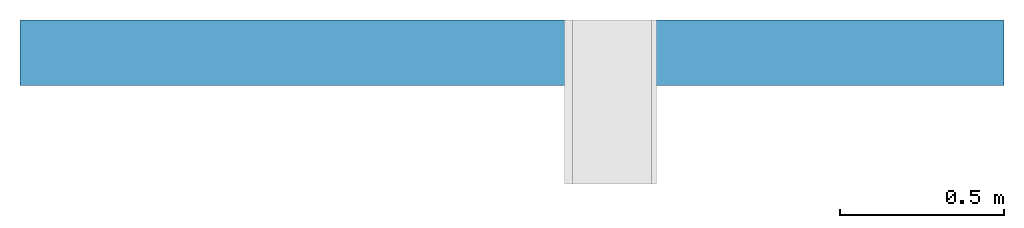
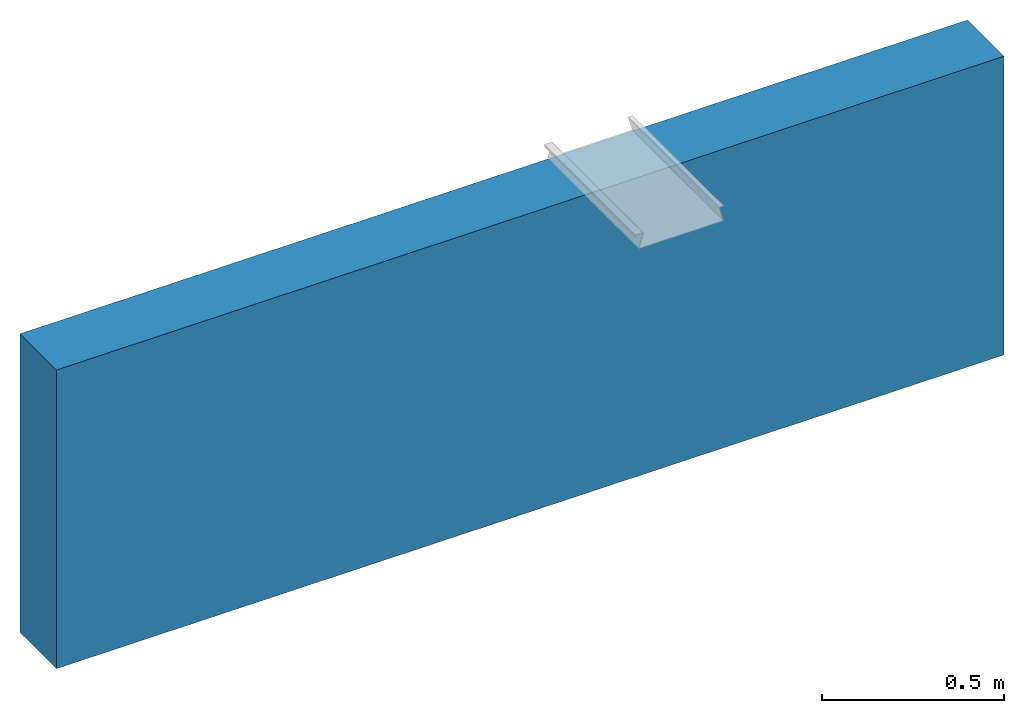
# One storey, part 1 of 2: 1 wall.
"""IFC2X3 building model written with IfcOpenShell, lengths in millimetres."""

from ifc_helpers import new_model, entity, si_unit, converted_unit, derived_unit, direction, frame, frame_2d, origin, place, context, subcontext, project, spatial, rectangle, extrude, material, layer, layer_set, layer_usage, type_object, element, save


model = new_model("IFC2X3")

# Units and contexts
model_context = context("Model", 3, precision=0.01, world=origin(), true_north=direction((6.12303176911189e-17, 1.0)))
body_context = subcontext(model_context, "Body", "Model", "MODEL_VIEW")
ifc_project = project(units=[si_unit("LENGTHUNIT", "METRE", prefix="MILLI"), si_unit("AREAUNIT", "SQUARE_METRE"), si_unit("VOLUMEUNIT", "CUBIC_METRE"), converted_unit("PLANEANGLEUNIT", "DEGREE", entity("IfcRatioMeasure", 0.0174532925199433), si_unit("PLANEANGLEUNIT", "RADIAN"), dimensions=[0, 0, 0, 0, 0, 0, 0]), si_unit("MASSUNIT", "GRAM", prefix="KILO"), derived_unit("MASSDENSITYUNIT", [(si_unit("MASSUNIT", "GRAM", prefix="KILO"), 1), (si_unit("LENGTHUNIT", "METRE"), -3)]), si_unit("TIMEUNIT", "SECOND"), si_unit("FREQUENCYUNIT", "HERTZ"), si_unit("THERMODYNAMICTEMPERATUREUNIT", "DEGREE_CELSIUS"), derived_unit("THERMALTRANSMITTANCEUNIT", [(si_unit("MASSUNIT", "GRAM", prefix="KILO"), 1), (si_unit("THERMODYNAMICTEMPERATUREUNIT", "KELVIN"), -1), (si_unit("TIMEUNIT", "SECOND"), -3)]), derived_unit("VOLUMETRICFLOWRATEUNIT", [(si_unit("LENGTHUNIT", "METRE"), 3), (si_unit("TIMEUNIT", "SECOND"), -1)]), si_unit("ELECTRICCURRENTUNIT", "AMPERE"), si_unit("ELECTRICVOLTAGEUNIT", "VOLT"), si_unit("POWERUNIT", "WATT"), si_unit("FORCEUNIT", "NEWTON", prefix="KILO"), si_unit("ILLUMINANCEUNIT", "LUX"), si_unit("LUMINOUSFLUXUNIT", "LUMEN"), si_unit("LUMINOUSINTENSITYUNIT", "CANDELA"), derived_unit("USERDEFINED", [(si_unit("MASSUNIT", "GRAM", prefix="KILO"), -1), (si_unit("LENGTHUNIT", "METRE"), -2), (si_unit("TIMEUNIT", "SECOND"), 3), (si_unit("LUMINOUSFLUXUNIT", "LUMEN"), 1)]), derived_unit("LINEARVELOCITYUNIT", [(si_unit("LENGTHUNIT", "METRE"), 1), (si_unit("TIMEUNIT", "SECOND"), -1)]), si_unit("PRESSUREUNIT", "PASCAL"), derived_unit("USERDEFINED", [(si_unit("LENGTHUNIT", "METRE"), -2), (si_unit("MASSUNIT", "GRAM", prefix="KILO"), 1), (si_unit("TIMEUNIT", "SECOND"), -2)])], contexts=[model_context])

# Site, building, storey
site_placement = place(None, origin())
site = spatial("IfcSite", under=ifc_project, at=site_placement, Name="Default", CompositionType="ELEMENT")
building_placement = place(site_placement, origin())
building = spatial("IfcBuilding", under=site, at=building_placement, CompositionType="ELEMENT")
storey_placement = place(building_placement, origin())
storey = spatial("IfcBuildingStorey", under=building, at=storey_placement, Name="Level 1", CompositionType="ELEMENT", Elevation=0.0)

# Wall
ifc_material = material(Name="Default Wall")
ifc_layer = layer(ifc_material, 200.0)
ifc_layer_set = layer_set([ifc_layer], Name="Basic Wall:Generic - 200mm")
ifc_layer_usage = layer_usage(ifc_layer_set, "AXIS2", "NEGATIVE", 100.0)
wall_type = type_object("IfcWallType", Name="Basic Wall:Generic - 200mm", PredefinedType="STANDARD", material=ifc_layer_set)
wall_placement = place(storey_placement, frame((-11062.9007843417, 788.529970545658, 0.0)))
element("IfcWallStandardCase", 1, at=wall_placement, inside=storey, type_object=wall_type, material=ifc_layer_usage, Name="Basic Wall:Generic - 200mm", ObjectType="Basic Wall:Generic - 200mm:249", context=body_context, shape_type="SweptSolid", body=[
    extrude(rectangle(XDim=3000.0, YDim=200.0, at=frame_2d((1500.0, 2.8421709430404e-14), x_axis=(-1.0, 0.0))), origin(), (0.0, 0.0, 1.0), 1000.0),
])

save(model, "model.ifc")
